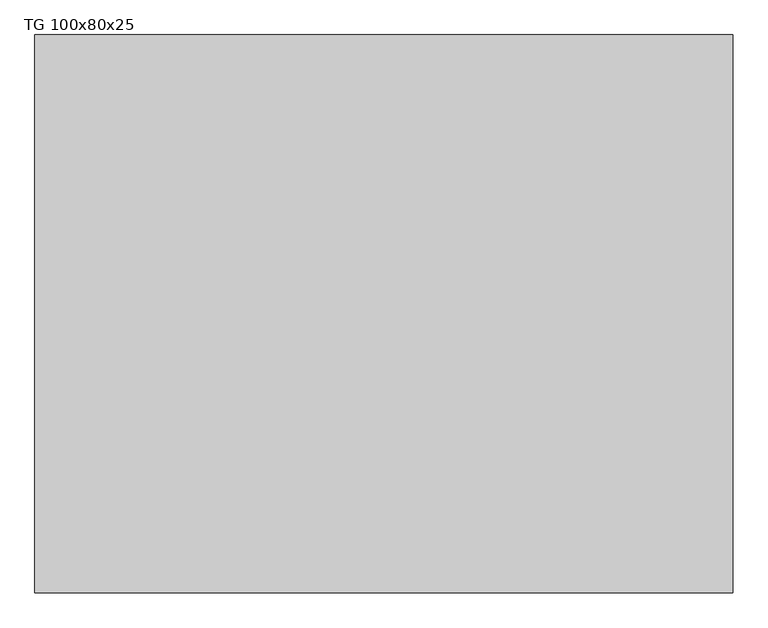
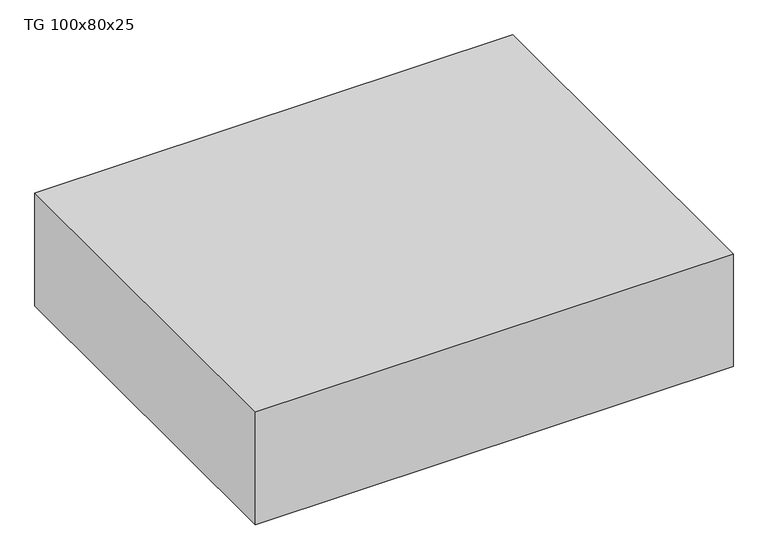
"""IFC4 building model written with IfcOpenShell, lengths in millimetres: proxy geometry, TABLERO ELECTRICO DE SUPERFICIE : TG 100x80x25."""

import ifcopenshell
import ifcopenshell.guid

model = None  # the IFC model being written
_history = None  # IfcOwnerHistory: only IFC2X3 demands one
_inside = {}  # id of a spatial element -> (the spatial element, [elements in it])
_under = {}  # id of a project, library or spatial element -> (it, [spatial elements below it])
_declared = {}  # id of a project -> (the project, [libraries it declares])
_typed = {}  # id of a type object -> (the type object, [elements of that type])
_made_of = {}  # id of a material, layer set ... -> (it, [elements and type objects made of it])


def new_model(schema):
    """Start an empty IFC model of exactly this schema.

    Asked for "IFC4X3", IfcOpenShell would pick the latest addendum, in which some entities
    have other attributes; the version numbers below select the first issue.
    IFC2X3 requires an IfcOwnerHistory on every rooted entity: one is made here for all.
    """
    global model, _history
    if schema == "IFC4X3":
        model = ifcopenshell.file(schema_version=(4, 3, 0, 0))
    else:
        model = ifcopenshell.file(schema=schema)
    _inside.clear()
    _under.clear()
    _declared.clear()
    _typed.clear()
    _made_of.clear()
    _history = None
    if model.schema == "IFC2X3":
        org = make("IfcOrganization", Name="unknown")
        user = make(
            "IfcPersonAndOrganization",
            ThePerson=make("IfcPerson", FamilyName="unknown"),
            TheOrganization=org,
        )
        app = make(
            "IfcApplication",
            ApplicationDeveloper=org,
            Version="unknown",
            ApplicationFullName="unknown",
            ApplicationIdentifier="unknown",
        )
        _history = make(
            "IfcOwnerHistory",
            OwningUser=user,
            OwningApplication=app,
            ChangeAction="ADDED",
            CreationDate=0,
        )
    return model


def make(cls, **values):
    """One entity of the class cls with the attributes given. An attribute that is None is left unset."""
    return model.create_entity(
        cls, **{name: value for name, value in values.items() if value is not None}
    )


def rooted(cls, **values):
    """An entity with a GlobalId (a new one), such as an element, a storey or a relation."""
    return make(cls, GlobalId=ifcopenshell.guid.new(), OwnerHistory=_history, **values)


def si_unit(unit_type, name, prefix=None):
    """IfcSIUnit, for example si_unit("LENGTHUNIT", "METRE", prefix="MILLI")."""
    return make("IfcSIUnit", UnitType=unit_type, Prefix=prefix, Name=name)


def assignment(units):
    """IfcUnitAssignment: the units of a project."""
    return None if units is None else make("IfcUnitAssignment", Units=units)


def point(xyz):
    """IfcCartesianPoint."""
    return None if xyz is None else make("IfcCartesianPoint", Coordinates=xyz)


def direction(xyz):
    """IfcDirection."""
    return None if xyz is None else make("IfcDirection", DirectionRatios=xyz)


def frame(location, z_axis=None, x_axis=None):
    """IfcAxis2Placement3D, a coordinate frame: its origin and axes. An axis left out is left unset."""
    return make(
        "IfcAxis2Placement3D",
        Location=point(location),
        Axis=direction(z_axis),
        RefDirection=direction(x_axis),
    )


def origin():
    """The frame at (0, 0, 0) with its axes left unset."""
    return frame((0.0, 0.0, 0.0))


def origin_with_axes():
    """The frame at (0, 0, 0) with the z axis (0, 0, 1) and the x axis (1, 0, 0) written out."""
    return frame((0.0, 0.0, 0.0), z_axis=(0.0, 0.0, 1.0), x_axis=(1.0, 0.0, 0.0))


def place(relative_to, where):
    """IfcLocalPlacement: puts the frame where relative to a parent placement (None: the world)."""
    return make(
        "IfcLocalPlacement", PlacementRelTo=relative_to, RelativePlacement=where
    )


def context(
    kind, dimensions, precision=None, world=None, true_north=None, identifier=None
):
    """IfcGeometricRepresentationContext, for example the 3D "Model" context."""
    return make(
        "IfcGeometricRepresentationContext",
        ContextIdentifier=identifier,
        ContextType=kind,
        CoordinateSpaceDimension=dimensions,
        Precision=precision,
        WorldCoordinateSystem=world,
        TrueNorth=true_north,
    )


def project(units=None, contexts=None):
    """IfcProject with its units and contexts."""
    return rooted(
        "IfcProject",
        Name="project",
        RepresentationContexts=contexts,
        UnitsInContext=assignment(units),
    )


def spatial(cls, under=None, at=None, **own):
    """A site, building, storey or space (cls), placed at a placement, below another one or the project."""
    s = rooted(cls, ObjectPlacement=at, **own)
    if under is not None:
        _under.setdefault(under.id(), (under, []))[1].append(s)
    return s


def polyline(points):
    """IfcPolyline through the points."""
    return make("IfcPolyline", Points=[point(p) for p in points])


def outline(outer, holes=None, kind="AREA"):
    """IfcArbitraryClosedProfileDef: a profile drawn as a closed curve; with holes, ...WithVoids."""
    if holes is None:
        return make("IfcArbitraryClosedProfileDef", ProfileType=kind, OuterCurve=outer)
    return make(
        "IfcArbitraryProfileDefWithVoids",
        ProfileType=kind,
        OuterCurve=outer,
        InnerCurves=holes,
    )


def extrude(swept, where, along, depth):
    """IfcExtrudedAreaSolid: the profile swept, set in the frame where, extruded along a direction by depth."""
    return make(
        "IfcExtrudedAreaSolid",
        SweptArea=swept,
        Position=where,
        ExtrudedDirection=direction(along),
        Depth=depth,
    )


def shape(context_of_items, identifier, shape_type, items):
    """IfcShapeRepresentation: the items that make up one representation, for example the "Body"."""
    return make(
        "IfcShapeRepresentation",
        ContextOfItems=context_of_items,
        RepresentationIdentifier=identifier,
        RepresentationType=shape_type,
        Items=items,
    )


def source(mapping_origin, context_of_items, identifier, shape_type, items):
    """IfcRepresentationMap: a shape defined once, which mapped items show again and again."""
    return make(
        "IfcRepresentationMap",
        MappingOrigin=mapping_origin,
        MappedRepresentation=shape(context_of_items, identifier, shape_type, items),
    )


def transform(
    local_origin,
    x_axis=None,
    y_axis=None,
    z_axis=None,
    scale=None,
    scale2=None,
    scale3=None,
    uniform=True,
):
    """IfcCartesianTransformationOperator3D, or its non-uniform kind. x_axis, y_axis, z_axis: its Axis1, 2, 3."""
    if uniform:
        return make(
            "IfcCartesianTransformationOperator3D",
            Axis1=direction(x_axis),
            Axis2=direction(y_axis),
            LocalOrigin=point(local_origin),
            Scale=scale,
            Axis3=direction(z_axis),
        )
    return make(
        "IfcCartesianTransformationOperator3DnonUniform",
        Axis1=direction(x_axis),
        Axis2=direction(y_axis),
        LocalOrigin=point(local_origin),
        Scale=scale,
        Axis3=direction(z_axis),
        Scale2=scale2,
        Scale3=scale3,
    )


def mapped(mapping_source, mapping_target):
    """IfcMappedItem: shows the shape of a source again, moved by a transform."""
    return make(
        "IfcMappedItem", MappingSource=mapping_source, MappingTarget=mapping_target
    )


def made_of(thing, what):
    """Note that an element or type object is made of a material, layer set ...; save() writes the relation."""
    if what is not None:
        _made_of.setdefault(what.id(), (what, []))[1].append(thing)
    return thing


def element(
    cls,
    number,
    at=None,
    inside=None,
    cuts=None,
    type_object=None,
    material=None,
    context=None,
    identifier="Body",
    shape_type=None,
    held_by="IfcProductDefinitionShape",
    body=None,
    shapes=None,
    **own,
):
    """One element of the class cls, such as IfcWall. Its Tag is "e" and its number.

    at: its placement. inside: the storey or other place that contains it. cuts: it is an
    opening in that element (IfcRelVoidsElement). A single representation is given by context,
    identifier, shape_type and body (its items); several are given by shapes. held_by: the class
    of the entity that holds the representations. save() writes the other relations.
    """
    e = rooted(cls, Tag="e%d" % number, ObjectPlacement=at, **own)
    if body is not None:
        shapes = [shape(context, identifier, shape_type, body)]
    if shapes is not None:
        e.Representation = make(held_by, Representations=shapes)
    if inside is not None:
        _inside.setdefault(inside.id(), (inside, []))[1].append(e)
    if cuts is not None:
        rooted(
            "IfcRelVoidsElement", RelatingBuildingElement=cuts, RelatedOpeningElement=e
        )
    if type_object is not None:
        _typed.setdefault(type_object.id(), (type_object, []))[1].append(e)
    return made_of(e, material)


def aggregate(whole, parts):
    """IfcRelAggregates: a whole, such as a stair, and the parts it consists of."""
    return rooted("IfcRelAggregates", RelatingObject=whole, RelatedObjects=parts)


def save(model, path):
    """Write the relations noted so far, then the file.

    IfcRelAggregates (storeys below a building ...), IfcRelContainedInSpatialStructure (elements
    in a storey), IfcRelDefinesByType, IfcRelAssociatesMaterial and IfcRelDeclares: one each for
    every whole, place, type object, material and project.
    """
    for whole, parts in _under.values():
        aggregate(whole, parts)
    for where, things in _inside.values():
        rooted(
            "IfcRelContainedInSpatialStructure",
            RelatedElements=things,
            RelatingStructure=where,
        )
    for kind, things in _typed.values():
        rooted("IfcRelDefinesByType", RelatedObjects=things, RelatingType=kind)
    for what, things in _made_of.values():
        rooted("IfcRelAssociatesMaterial", RelatedObjects=things, RelatingMaterial=what)
    for by, libraries in _declared.values():
        rooted("IfcRelDeclares", RelatingContext=by, RelatedDefinitions=libraries)
    model.write(path)


def tg_100x80x25_6bbc99c6(model_context):
    return source(origin(), model_context, "Body", "SweptSolid", [
        extrude(outline(polyline([(500.0, 0.0), (500.0, -800.0), (-500.0, -800.0), (-500.0, 0.0), (500.0, 0.0)])), origin_with_axes(), (0.0, 0.0, 1.0), 250.0),
    ])


if __name__ == "__main__":
    model = new_model("IFC4")
    model_context = context("Model", 3, world=origin())
    ifc_project = project(units=[si_unit("LENGTHUNIT", "METRE", prefix="MILLI")], contexts=[model_context])
    site = spatial("IfcSite", under=ifc_project)
    building = spatial("IfcBuilding", under=site)
    placement = place(None, origin())
    tg_100x80x25_shape = tg_100x80x25_6bbc99c6(model_context)
    element("IfcBuildingElementProxy", 1, Name="TABLERO ELECTRICO DE SUPERFICIE : TG 100x80x25", ObjectType="TABLERO ELECTRICO DE SUPERFICIE : TG 100x80x25", at=placement, inside=building, context=model_context, shape_type="MappedRepresentation", body=[
        mapped(tg_100x80x25_shape, transform((0.0, 0.0, 0.0), x_axis=(1.0, 0.0, 0.0), y_axis=(0.0, 1.0, 0.0), z_axis=(0.0, 0.0, 1.0))),
    ])
    save(model, "model.ifc")
